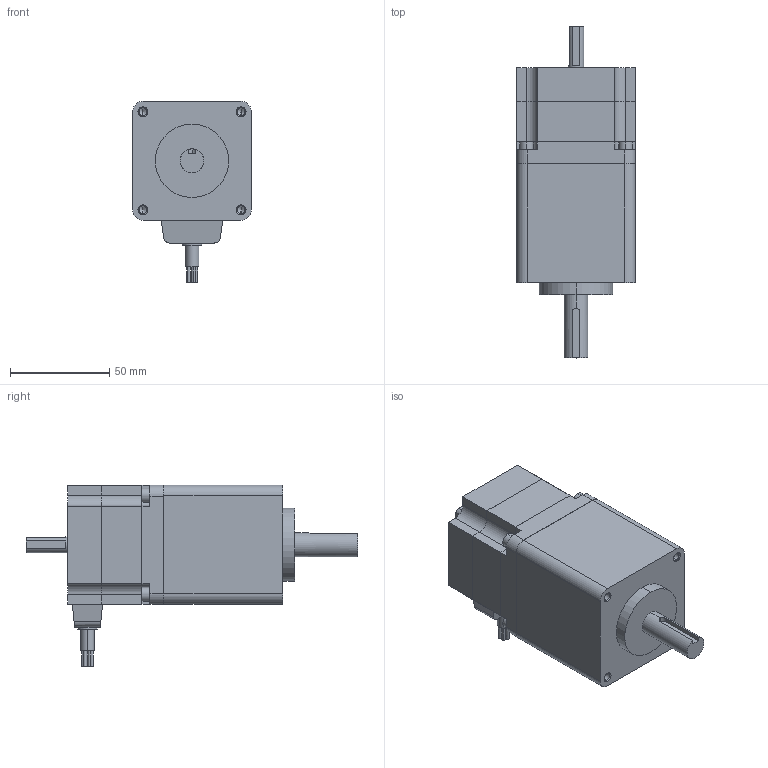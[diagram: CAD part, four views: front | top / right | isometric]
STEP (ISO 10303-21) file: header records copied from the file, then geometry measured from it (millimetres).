
FILE_DESCRIPTION(('starvars output'),'2;1');
FILE_NAME('CRK564BP-N25.stp','15:38:24 2015/05/11',( 'Thomas Industrial Network Germany GmbH'),( 'Thomas Industrial Network Germany GmbH'),'unknown preprocess','ACIS' ,'unknown authorization');
FILE_SCHEMA(('AUTOMOTIVE_DESIGN_CC2 {UNKNOWN IMPLEMENTATION LEVEL}'));
Length unit declared in the file: millimetre
Products named in the file (1): PRODUCT_ID_373
Bounding box: 60 x 167.5 x 91.5 mm (x, y, z)
Volume: 387991.5 mm3; surface area: 42054.4 mm2
Topology: 1 solids, 1 shells, 229 faces, 575 edges, 362 vertices
Faces by surface type: plane 135, cylinder 78, cone 16
Entity records: 7896 total; most frequent: ORIENTED_EDGE 1134, CARTESIAN_POINT 1021, DIRECTION 906, EDGE_CURVE 567, VERTEX_POINT 362, VECTOR 340, LINE 340, AXIS2_PLACEMENT_3D 283
